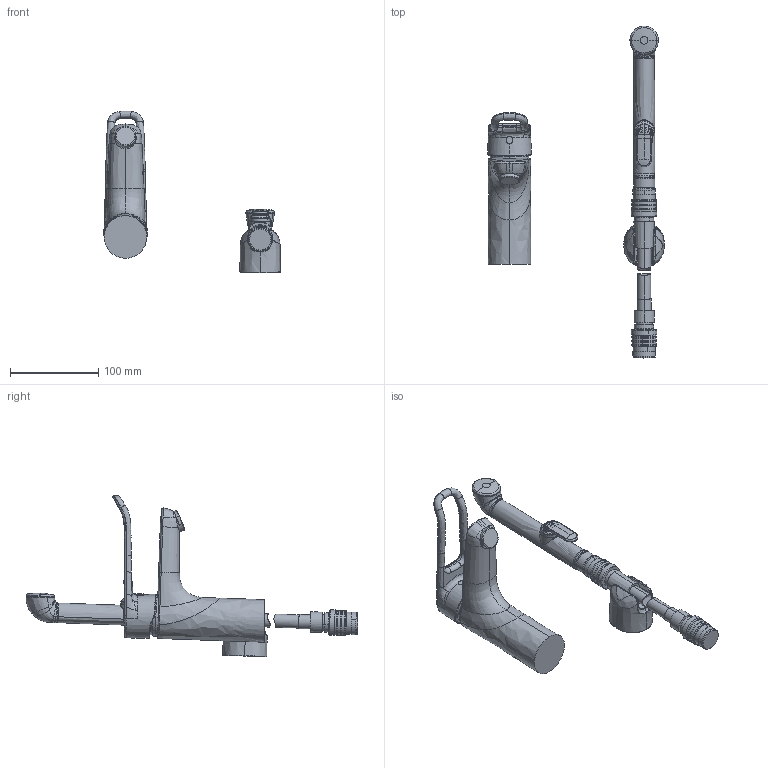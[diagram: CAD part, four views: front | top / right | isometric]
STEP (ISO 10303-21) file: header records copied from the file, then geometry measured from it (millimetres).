
FILE_DESCRIPTION (( 'STEP AP203' ), '1' );
FILE_NAME ('5601(2018)+45192186.STEP', '2018-05-18T10:55:27', ( '' ), ( '' ), 'SwSTEP 2.0', 'SolidWorks 2016', '' );
FILE_SCHEMA (( 'CONFIG_CONTROL_DESIGN' ));
Length unit declared in the file: millimetre
Products named in the file (1): 5601(2018)+45192186
Bounding box: 200.4 x 376.04 x 183.12 mm (x, y, z)
Volume: 642798.4 mm3; surface area: 104890.4 mm2
Topology: 14 solids, 14 shells, 511 faces, 1426 edges, 956 vertices
Faces by surface type: bspline 288, cylinder 94, torus 53, plane 49, cone 22, sphere 5
Entity records: 56329 total; most frequent: CARTESIAN_POINT 45836, ORIENTED_EDGE 2836, EDGE_CURVE 1418, DIRECTION 1278, VERTEX_POINT 956, B_SPLINE_CURVE_WITH_KNOTS 787, AXIS2_PLACEMENT_3D 573, EDGE_LOOP 534
